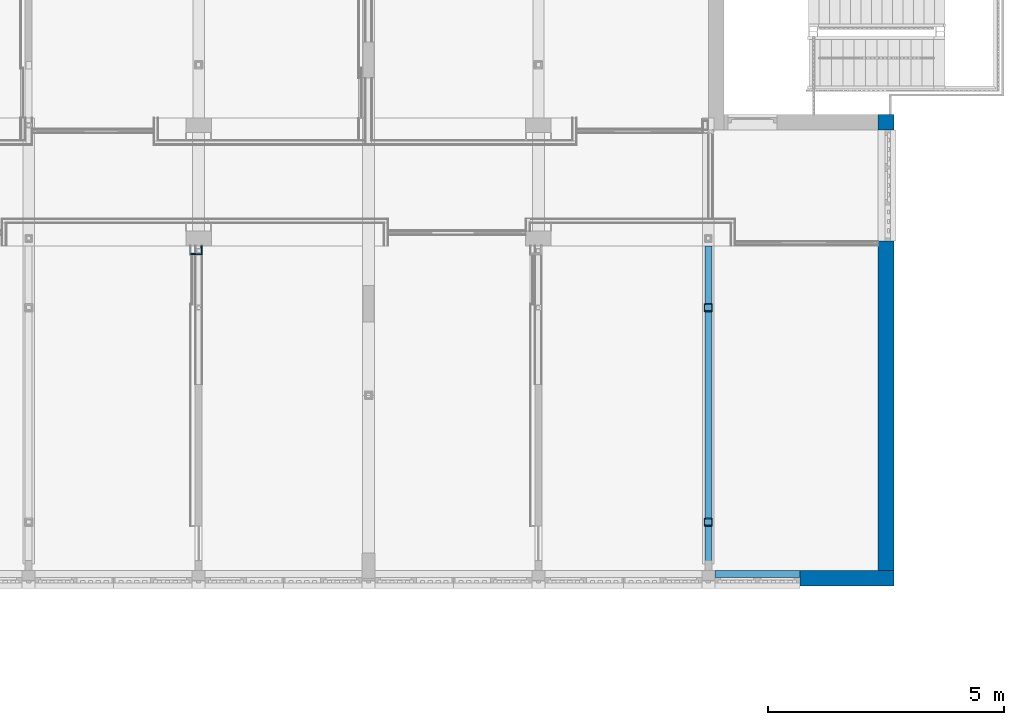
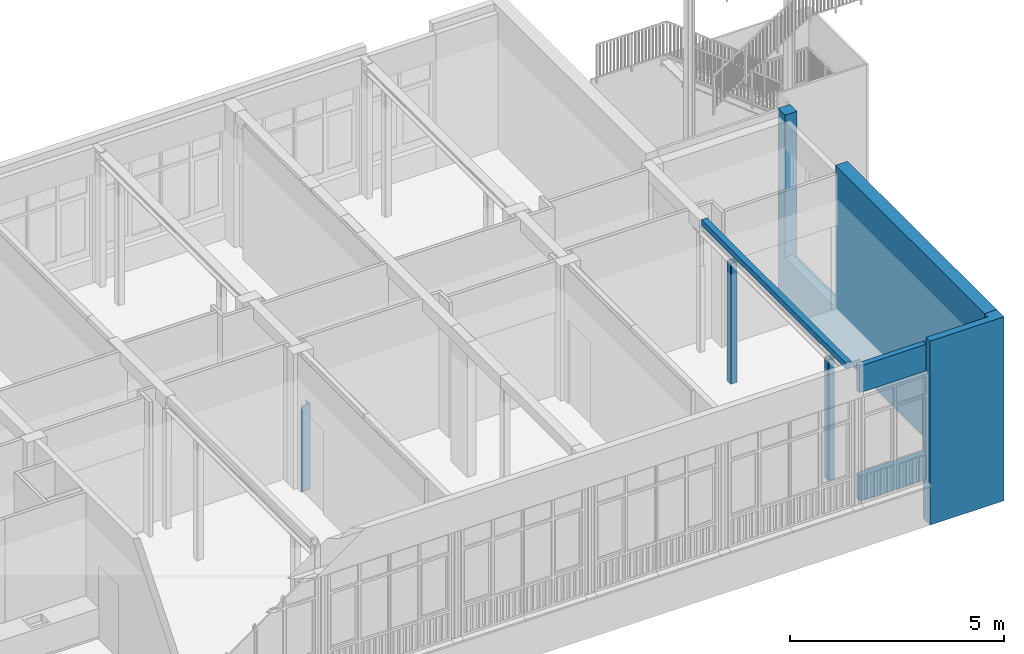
# One storey, part 94 of 135: 15 walls, 1 opening.
"""IFC2X3 building model written with IfcOpenShell, lengths in millimetres."""

import ifcopenshell
import ifcopenshell.guid

model = None  # the IFC model being written
_history = None  # IfcOwnerHistory: only IFC2X3 demands one
_inside = {}  # id of a spatial element -> (the spatial element, [elements in it])
_under = {}  # id of a project, library or spatial element -> (it, [spatial elements below it])
_declared = {}  # id of a project -> (the project, [libraries it declares])
_typed = {}  # id of a type object -> (the type object, [elements of that type])
_made_of = {}  # id of a material, layer set ... -> (it, [elements and type objects made of it])


def new_model(schema):
    """Start an empty IFC model of exactly this schema.

    Asked for "IFC4X3", IfcOpenShell would pick the latest addendum, in which some entities
    have other attributes; the version numbers below select the first issue.
    IFC2X3 requires an IfcOwnerHistory on every rooted entity: one is made here for all.
    """
    global model, _history
    if schema == "IFC4X3":
        model = ifcopenshell.file(schema_version=(4, 3, 0, 0))
    else:
        model = ifcopenshell.file(schema=schema)
    _inside.clear()
    _under.clear()
    _declared.clear()
    _typed.clear()
    _made_of.clear()
    _history = None
    if model.schema == "IFC2X3":
        org = make("IfcOrganization", Name="unknown")
        user = make(
            "IfcPersonAndOrganization",
            ThePerson=make("IfcPerson", FamilyName="unknown"),
            TheOrganization=org,
        )
        app = make(
            "IfcApplication",
            ApplicationDeveloper=org,
            Version="unknown",
            ApplicationFullName="unknown",
            ApplicationIdentifier="unknown",
        )
        _history = make(
            "IfcOwnerHistory",
            OwningUser=user,
            OwningApplication=app,
            ChangeAction="ADDED",
            CreationDate=0,
        )
    return model


def make(cls, **values):
    """One entity of the class cls with the attributes given. An attribute that is None is left unset."""
    return model.create_entity(
        cls, **{name: value for name, value in values.items() if value is not None}
    )


def entity(cls, *values):
    """Any entity or typed value of the class cls, its attributes in the order of the schema. None: left unset."""
    e = model.create_entity(cls)
    for i, value in enumerate(values):
        if value is not None:
            e[i] = value
    return e


def rooted(cls, **values):
    """An entity with a GlobalId (a new one), such as an element, a storey or a relation."""
    return make(cls, GlobalId=ifcopenshell.guid.new(), OwnerHistory=_history, **values)


def si_unit(unit_type, name, prefix=None):
    """IfcSIUnit, for example si_unit("LENGTHUNIT", "METRE", prefix="MILLI")."""
    return make("IfcSIUnit", UnitType=unit_type, Prefix=prefix, Name=name)


def converted_unit(unit_type, name, factor, base, dimensions=None, offset=None):
    """IfcConversionBasedUnit, such as the inch: factor (a typed value) times the base unit."""
    return make(
        "IfcConversionBasedUnit"
        if offset is None
        else "IfcConversionBasedUnitWithOffset",
        ConversionOffset=offset,
        Dimensions=None
        if dimensions is None
        else entity("IfcDimensionalExponents", *dimensions),
        UnitType=unit_type,
        Name=name,
        ConversionFactor=make(
            "IfcMeasureWithUnit", ValueComponent=factor, UnitComponent=base
        ),
    )


def derived_unit(unit_type, elements):
    """IfcDerivedUnit: a product of units, each with its exponent."""
    return make(
        "IfcDerivedUnit",
        Elements=[
            make("IfcDerivedUnitElement", Unit=unit, Exponent=power)
            for unit, power in elements
        ],
        UnitType=unit_type,
    )


def money_unit(currency):
    """IfcMonetaryUnit."""
    return make("IfcMonetaryUnit", Currency=currency)


def assignment(units):
    """IfcUnitAssignment: the units of a project."""
    return None if units is None else make("IfcUnitAssignment", Units=units)


def point(xyz):
    """IfcCartesianPoint."""
    return None if xyz is None else make("IfcCartesianPoint", Coordinates=xyz)


def direction(xyz):
    """IfcDirection."""
    return None if xyz is None else make("IfcDirection", DirectionRatios=xyz)


def frame(location, z_axis=None, x_axis=None):
    """IfcAxis2Placement3D, a coordinate frame: its origin and axes. An axis left out is left unset."""
    return make(
        "IfcAxis2Placement3D",
        Location=point(location),
        Axis=direction(z_axis),
        RefDirection=direction(x_axis),
    )


def origin_with_axes():
    """The frame at (0, 0, 0) with the z axis (0, 0, 1) and the x axis (1, 0, 0) written out."""
    return frame((0.0, 0.0, 0.0), z_axis=(0.0, 0.0, 1.0), x_axis=(1.0, 0.0, 0.0))


def place(relative_to, where):
    """IfcLocalPlacement: puts the frame where relative to a parent placement (None: the world)."""
    return make(
        "IfcLocalPlacement", PlacementRelTo=relative_to, RelativePlacement=where
    )


def context(
    kind, dimensions, precision=None, world=None, true_north=None, identifier=None
):
    """IfcGeometricRepresentationContext, for example the 3D "Model" context."""
    return make(
        "IfcGeometricRepresentationContext",
        ContextIdentifier=identifier,
        ContextType=kind,
        CoordinateSpaceDimension=dimensions,
        Precision=precision,
        WorldCoordinateSystem=world,
        TrueNorth=true_north,
    )


def subcontext(parent, identifier, kind, view, scale=None):
    """IfcGeometricRepresentationSubContext, for example "Body" below "Model"."""
    return make(
        "IfcGeometricRepresentationSubContext",
        ContextIdentifier=identifier,
        ContextType=kind,
        ParentContext=parent,
        TargetScale=scale,
        TargetView=view,
    )


def project(units=None, contexts=None):
    """IfcProject with its units and contexts."""
    return rooted(
        "IfcProject",
        Name="project",
        RepresentationContexts=contexts,
        UnitsInContext=assignment(units),
    )


def spatial(cls, under=None, at=None, **own):
    """A site, building, storey or space (cls), placed at a placement, below another one or the project."""
    s = rooted(cls, ObjectPlacement=at, **own)
    if under is not None:
        _under.setdefault(under.id(), (under, []))[1].append(s)
    return s


def faces_of(points, faces, orient=None, outer=None):
    """IfcFace entities. A face is a list of loops; a loop is a list of indices into points, from 0.

    orient and outer hold one flag for each loop. By default every Orientation is true, the
    first loop of a face is its IfcFaceOuterBound and the others are IfcFaceBound.
    """
    made = []
    for i, loops in enumerate(faces):
        bounds = []
        for j, loop in enumerate(loops):
            is_outer = j == 0 if outer is None else outer[i][j]
            bounds.append(
                make(
                    "IfcFaceOuterBound" if is_outer else "IfcFaceBound",
                    Bound=make("IfcPolyLoop", Polygon=[points[k] for k in loop]),
                    Orientation=True if orient is None else orient[i][j],
                )
            )
        made.append(make("IfcFace", Bounds=bounds))
    return made


def faceted_brep(points, faces, orient=None, outer=None, voids=None):
    """IfcFacetedBrep: a solid bounded by flat faces; with voids (closed shells), ...WithVoids."""
    shared = [point(p) for p in points]
    hull = make("IfcClosedShell", CfsFaces=faces_of(shared, faces, orient, outer))
    if voids is None:
        return make("IfcFacetedBrep", Outer=hull)
    return make(
        "IfcFacetedBrepWithVoids",
        Outer=hull,
        Voids=[
            make(cls, CfsFaces=faces_of(shared, fs, o, b)) for cls, fs, o, b in voids
        ],
    )


def shape(context_of_items, identifier, shape_type, items):
    """IfcShapeRepresentation: the items that make up one representation, for example the "Body"."""
    return make(
        "IfcShapeRepresentation",
        ContextOfItems=context_of_items,
        RepresentationIdentifier=identifier,
        RepresentationType=shape_type,
        Items=items,
    )


def material(Name=None, Category=None):
    """IfcMaterial."""
    return make("IfcMaterial", Name=Name, Category=Category)


def made_of(thing, what):
    """Note that an element or type object is made of a material, layer set ...; save() writes the relation."""
    if what is not None:
        _made_of.setdefault(what.id(), (what, []))[1].append(thing)
    return thing


def type_object(cls, material=None, **own):
    """A type object (cls), such as IfcWallType, which elements share."""
    return made_of(rooted(cls, **own), material)


def element(
    cls,
    number,
    at=None,
    inside=None,
    cuts=None,
    type_object=None,
    material=None,
    context=None,
    identifier="Body",
    shape_type=None,
    held_by="IfcProductDefinitionShape",
    body=None,
    shapes=None,
    **own,
):
    """One element of the class cls, such as IfcWall. Its Tag is "e" and its number.

    at: its placement. inside: the storey or other place that contains it. cuts: it is an
    opening in that element (IfcRelVoidsElement). A single representation is given by context,
    identifier, shape_type and body (its items); several are given by shapes. held_by: the class
    of the entity that holds the representations. save() writes the other relations.
    """
    e = rooted(cls, Tag="e%d" % number, ObjectPlacement=at, **own)
    if body is not None:
        shapes = [shape(context, identifier, shape_type, body)]
    if shapes is not None:
        e.Representation = make(held_by, Representations=shapes)
    if inside is not None:
        _inside.setdefault(inside.id(), (inside, []))[1].append(e)
    if cuts is not None:
        rooted(
            "IfcRelVoidsElement", RelatingBuildingElement=cuts, RelatedOpeningElement=e
        )
    if type_object is not None:
        _typed.setdefault(type_object.id(), (type_object, []))[1].append(e)
    return made_of(e, material)


def aggregate(whole, parts):
    """IfcRelAggregates: a whole, such as a stair, and the parts it consists of."""
    return rooted("IfcRelAggregates", RelatingObject=whole, RelatedObjects=parts)


def save(model, path):
    """Write the relations noted so far, then the file.

    IfcRelAggregates (storeys below a building ...), IfcRelContainedInSpatialStructure (elements
    in a storey), IfcRelDefinesByType, IfcRelAssociatesMaterial and IfcRelDeclares: one each for
    every whole, place, type object, material and project.
    """
    for whole, parts in _under.values():
        aggregate(whole, parts)
    for where, things in _inside.values():
        rooted(
            "IfcRelContainedInSpatialStructure",
            RelatedElements=things,
            RelatingStructure=where,
        )
    for kind, things in _typed.values():
        rooted("IfcRelDefinesByType", RelatedObjects=things, RelatingType=kind)
    for what, things in _made_of.values():
        rooted("IfcRelAssociatesMaterial", RelatedObjects=things, RelatingMaterial=what)
    for by, libraries in _declared.values():
        rooted("IfcRelDeclares", RelatingContext=by, RelatedDefinitions=libraries)
    model.write(path)


model = new_model("IFC2X3")

# Units and contexts
model_context = context("Model", 3, precision=0.01, world=origin_with_axes(), true_north=direction((0.0, 1.0)))
body_context = subcontext(model_context, "Body", "Model", "MODEL_VIEW")
ifc_project = project(units=[si_unit("LENGTHUNIT", "METRE", prefix="MILLI"), si_unit("AREAUNIT", "SQUARE_METRE"), si_unit("VOLUMEUNIT", "CUBIC_METRE"), converted_unit("PLANEANGLEUNIT", "DEGREE", entity("IfcPlaneAngleMeasure", 0.0174532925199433), si_unit("PLANEANGLEUNIT", "RADIAN"), dimensions=[0, 0, 0, 0, 0, 0, 0]), money_unit("EUR"), converted_unit("TIMEUNIT", "Year", entity("IfcTimeMeasure", 31557600.0), si_unit("TIMEUNIT", "SECOND"), dimensions=[0, 0, 1, 0, 0, 0, 0]), si_unit("MASSUNIT", "GRAM", prefix="KILO"), si_unit("THERMODYNAMICTEMPERATUREUNIT", "DEGREE_CELSIUS"), si_unit("LUMINOUSINTENSITYUNIT", "LUMEN"), si_unit("ENERGYUNIT", "JOULE", prefix="MEGA"), derived_unit("THERMALCONDUCTANCEUNIT", [(si_unit("POWERUNIT", "WATT"), 1), (si_unit("LENGTHUNIT", "METRE"), -1), (si_unit("THERMODYNAMICTEMPERATUREUNIT", "KELVIN"), -1)]), derived_unit("SPECIFICHEATCAPACITYUNIT", [(si_unit("ENERGYUNIT", "JOULE"), 1), (si_unit("MASSUNIT", "GRAM", prefix="KILO"), -1), (si_unit("THERMODYNAMICTEMPERATUREUNIT", "KELVIN"), -1)]), derived_unit("MASSDENSITYUNIT", [(si_unit("MASSUNIT", "GRAM", prefix="KILO"), 1), (si_unit("VOLUMEUNIT", "CUBIC_METRE"), -1)])], contexts=[model_context])

# Site, building, storey
site_placement = place(None, origin_with_axes())
site = spatial("IfcSite", under=ifc_project, at=site_placement, Name="Site", CompositionType="ELEMENT")
building_placement = place(site_placement, origin_with_axes())
building = spatial("IfcBuilding", under=site, at=building_placement, Name="Naam gebouw", CompositionType="ELEMENT")
storey_placement = place(building_placement, origin_with_axes())
storey = spatial("IfcBuildingStorey", under=building, at=storey_placement, Name="Begane grond N", CompositionType="ELEMENT", Elevation=0.0)

# Wall
ifc_material_1 = material(Name="ALG - CONSTRUCTIEF")
wall_type_1 = type_object("IfcWallType", Name="ALG - CONSTRUCTIEF 330", PredefinedType="NOTDEFINED")
wall_1_placement = place(storey_placement, frame((57599.99999999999, 10990.91242510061, -1200.0), z_axis=(0.0, 0.0, 1.0), x_axis=(-1.0, 0.0, 0.0)))
element("IfcWall", 1, at=wall_1_placement, inside=storey, type_object=wall_type_1, material=ifc_material_1, Name="_Wand-x", context=body_context, shape_type="Brep", body=[
    faceted_brep([(1662.500000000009, 0.0, 0.0), (1662.500000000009, 0.0, 5050.000000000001), (0.0, 0.0, 5050.000000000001), (0.0, 0.0, 5250.000000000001), (-329.9999999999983, 0.0, 5250.000000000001), (-329.9999999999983, 0.0, 0.0), (1662.500000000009, 146.0000000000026, 5250.000000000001), (1662.500000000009, 146.0000000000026, 5050.000000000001), (1662.500000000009, 330.0000000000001, 0.0), (1662.500000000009, 330.0000000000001, 5250.000000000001), (0.0, 146.0000000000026, 5050.000000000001), (0.0, 146.0000000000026, 5250.000000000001), (-329.9999999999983, 330.0000000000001, 5250.000000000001), (-329.9999999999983, 330.0000000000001, 0.0)], [[[0, 1, 2, 3, 4, 5]], [[6, 7, 1, 0, 8, 9]], [[10, 2, 1, 7]], [[10, 11, 3, 2]], [[3, 11, 6, 9, 12, 4]], [[5, 4, 12, 13]], [[0, 5, 13, 8]], [[7, 6, 11, 10]], [[8, 13, 12, 9]]]),
])

# Wall, opening
wall_2_placement = place(storey_placement, frame((57599.99999999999, 20655.9124251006, -1200.0), z_axis=(0.0, 0.0, 1.0), x_axis=(0.0, -1.0, 0.0)))
wall_2 = element("IfcWall", 2, at=wall_2_placement, inside=storey, type_object=wall_type_1, material=ifc_material_1, Name="_Wand-x", context=body_context, shape_type="Brep", body=[
    faceted_brep([(329.9999999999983, 225.0000000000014, 1200.000000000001), (329.9999999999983, 225.0000000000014, 1120.000000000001), (329.9999999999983, 329.9999999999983, 1120.000000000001), (329.9999999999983, 329.9999999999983, 1200.000000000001), (329.9999999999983, 329.9999999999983, 5250.000000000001), (329.9999999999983, 0.0, 5250.000000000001), (329.9999999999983, 0.0, 1200.000000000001), (2684.999999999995, 225.0000000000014, 1200.000000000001), (2684.999999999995, 225.0000000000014, 1120.000000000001), (2684.999999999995, 329.9999999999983, 1120.000000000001), (2684.999999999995, 329.9999999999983, 1200.000000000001), (2684.999999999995, 329.9999999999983, 5250.000000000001), (9664.999999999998, 329.9999999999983, 5250.000000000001), (9664.999999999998, 329.9999999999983, 0.0), (0.0, 329.9999999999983, 0.0), (0.0, 329.9999999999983, 5250.000000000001), (0.0, 0.0, 5250.000000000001), (9664.999999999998, 0.0, 5250.000000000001), (2684.999999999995, 0.0, 5250.000000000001), (2684.999999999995, 0.0, 1200.000000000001), (0.0, 0.0, 0.0), (9664.999999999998, 0.0, 0.0)], [[[0, 1, 2, 3, 4, 5, 6]], [[0, 7, 8, 1]], [[9, 2, 1, 8]], [[9, 10, 11, 12, 13, 14, 15, 4, 3, 2]], [[4, 15, 16, 5]], [[17, 18, 19, 6, 5, 16, 20, 21]], [[7, 0, 6, 19]], [[10, 9, 8, 7, 19, 18, 11]], [[17, 12, 11, 18]], [[12, 17, 21, 13]], [[20, 14, 13, 21]], [[20, 16, 15, 14]]]),
])
opening_placement = place(wall_2_placement, frame((1507.499999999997, 0.0, 1200.000000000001), z_axis=(0.0, 0.0, 1.0), x_axis=(1.0, 0.0, 0.0)))
element("IfcOpeningElement", 3, at=opening_placement, cuts=wall_2, Name="_Merk-009", context=body_context, shape_type="Brep", body=[
    faceted_brep([(1177.499999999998, 259.999999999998, 0.0), (1177.499999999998, 330.999999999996, 0.0), (1177.499999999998, 330.999999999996, 4090.0), (1177.499999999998, 259.999999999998, 4090.0), (1177.499999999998, -0.9999999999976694, 4090.0), (1177.499999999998, -0.9999999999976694, 0.0), (1177.499999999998, 225.0000000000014, 0.0), (1177.499999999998, 225.0000000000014, -80.00000000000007), (1177.499999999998, 330.999999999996, -80.00000000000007), (-1177.499999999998, 330.999999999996, 0.0), (-1177.499999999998, 330.999999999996, 4090.0), (-1177.499999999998, 330.999999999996, -80.00000000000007), (-1177.499999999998, 259.999999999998, 4090.0), (-1177.499999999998, -0.9999999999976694, 4090.0), (-1177.499999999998, -0.9999999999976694, 0.0), (-1177.499999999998, 225.0000000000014, 0.0), (-1177.499999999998, 225.0000000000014, -80.00000000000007), (-1177.499999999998, 259.999999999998, 0.0)], [[[0, 1, 2, 3]], [[1, 0, 3, 4, 5, 6, 7, 8]], [[9, 10, 2, 1, 8, 11]], [[3, 2, 10, 12, 13, 4]], [[13, 14, 5, 4]], [[15, 6, 5, 14]], [[6, 15, 16, 7]], [[7, 16, 11, 8]], [[9, 17, 12, 10]], [[17, 9, 11, 16, 15, 14, 13, 12]]]),
])

# Walls
wall_type_2 = type_object("IfcWallType", Name="ALG - CONSTRUCTIEF 146", PredefinedType="NOTDEFINED")
wall_3_placement = place(storey_placement, frame((55937.49999999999, 10990.91242510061, 0.0), z_axis=(0.0, 0.0, 1.0), x_axis=(-1.0, 0.0, 0.0)))
element("IfcWall", 4, at=wall_3_placement, inside=storey, type_object=wall_type_2, material=ifc_material_1, Name="_Wand-x", context=body_context, shape_type="Brep", body=[
    faceted_brep([(0.0, 146.0000000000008, 0.0), (1799.999999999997, 145.999999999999, 0.0), (1799.999999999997, 0.0, 0.0), (0.0, 0.0, 0.0), (0.0, 146.0000000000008, 720.0000000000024), (1799.999999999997, 146.0000000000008, 720.0000000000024), (1799.999999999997, 0.0, 720.0000000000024), (0.0, 0.0, 720.0000000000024)], [[[0, 1, 2, 3]], [[4, 5, 1, 0]], [[2, 1, 5, 6]], [[3, 2, 6, 7]], [[4, 0, 3, 7]], [[7, 6, 5, 4]]]),
])
wall_4_placement = place(storey_placement, frame((55937.49999999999, 10990.91242510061, 3090.0), z_axis=(0.0, 0.0, 1.0), x_axis=(-1.0, 0.0, 0.0)))
element("IfcWall", 5, at=wall_4_placement, inside=storey, type_object=wall_type_2, material=ifc_material_1, Name="_Wand-x", context=body_context, shape_type="Brep", body=[
    faceted_brep([(0.0, 146.0000000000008, 0.0), (1799.999999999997, 145.999999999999, 0.0), (1799.999999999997, 0.0, 0.0), (0.0, 0.0, 0.0), (0.0, 146.0000000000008, 760.0000000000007), (1799.999999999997, 146.0000000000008, 760.0000000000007), (1799.999999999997, 0.0, 760.0000000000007), (0.0, 0.0, 760.0000000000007)], [[[0, 1, 2, 3]], [[4, 5, 1, 0]], [[2, 1, 5, 6]], [[3, 2, 6, 7]], [[4, 0, 3, 7]], [[7, 6, 5, 4]]]),
])
ifc_material_2 = material(Name="Gipsplaat")
wall_type_3 = type_object("IfcWallType", Name="Gipsplaat 25", PredefinedType="NOTDEFINED")
wall_5_placement = place(storey_placement, frame((53915.00000000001, 16645.9124251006, 0.0), z_axis=(0.0, 0.0, 1.0), x_axis=(1.0, 0.0, 0.0)))
element("IfcWall", 6, at=wall_5_placement, inside=storey, type_object=wall_type_3, material=ifc_material_2, Name="_Wand-x", context=body_context, shape_type="Brep", body=[
    faceted_brep([(170.0000000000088, -24.99999999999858, 3439.999999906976), (170.0000000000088, 0.0, 3439.999999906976), (24.99999999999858, 0.0, 3439.999999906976), (24.99999999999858, -24.99999999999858, 3439.999999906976), (170.0000000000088, -24.99999999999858, 0.0), (170.0000000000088, 0.0, 0.0), (24.99999999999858, 0.0, 0.0), (24.99999999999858, -24.99999999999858, 0.0)], [[[0, 1, 2, 3]], [[1, 0, 4, 5]], [[1, 5, 6, 2]], [[7, 3, 2, 6]], [[4, 0, 3, 7]], [[5, 4, 7, 6]]]),
])
wall_6_placement = place(storey_placement, frame((53915.00000000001, 16475.91242510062, 0.0), z_axis=(0.0, 0.0, 1.0), x_axis=(1.0, 0.0, 0.0)))
element("IfcWall", 7, at=wall_6_placement, inside=storey, type_object=wall_type_3, material=ifc_material_2, Name="_Wand-x", context=body_context, shape_type="Brep", body=[
    faceted_brep([(169.9999999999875, 25.00000000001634, 0.0), (169.9999999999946, 0.0, 0.0), (24.99999999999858, 0.0, 0.0), (24.99999999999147, 24.99999999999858, 0.0), (169.9999999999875, 25.00000000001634, 3439.999999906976), (169.9999999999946, 0.0, 3439.999999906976), (24.99999999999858, 0.0, 3439.999999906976), (24.99999999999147, 24.99999999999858, 3439.999999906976)], [[[0, 1, 2, 3]], [[1, 0, 4, 5]], [[1, 5, 6, 2]], [[7, 3, 2, 6]], [[4, 0, 3, 7]], [[5, 4, 7, 6]]]),
])
wall_7_placement = place(storey_placement, frame((43275.00000000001, 17685.91242510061, 0.0), z_axis=(0.0, 0.0, 1.0), x_axis=(0.0, 1.0, 0.0)))
element("IfcWall", 8, at=wall_7_placement, inside=storey, type_object=wall_type_3, material=ifc_material_2, Name="_Wand-x", context=body_context, shape_type="Brep", body=[
    faceted_brep([(24.99999999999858, 0.0, 0.0), (24.99999999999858, 24.99999999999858, 0.0), (184.9999999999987, 24.99999999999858, 0.0), (184.9999999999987, 0.0, 0.0), (24.99999999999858, 0.0, 2440.0), (24.99999999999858, 24.99999999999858, 2440.0), (184.9999999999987, 24.99999999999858, 2440.0), (184.9999999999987, 0.0, 2440.0)], [[[0, 1, 2, 3]], [[4, 5, 1, 0]], [[1, 5, 6, 2]], [[7, 3, 2, 6]], [[4, 0, 3, 7]], [[5, 4, 7, 6]]]),
])
wall_8_placement = place(storey_placement, frame((54085.00000000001, 16475.9124251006, 0.0), z_axis=(0.0, 0.0, 1.0), x_axis=(0.0, 1.0, 0.0)))
element("IfcWall", 9, at=wall_8_placement, inside=storey, type_object=wall_type_3, material=ifc_material_2, Name="_Wand-x", context=body_context, shape_type="Brep", body=[
    faceted_brep([(145.0000000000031, 25.00000000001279, 0.0), (145.0000000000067, 0.0, 0.0), (24.99999999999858, 0.0, 0.0), (24.99999999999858, 24.99999999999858, 0.0), (145.0000000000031, 25.00000000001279, 3439.999999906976), (145.0000000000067, 0.0, 3439.999999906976), (24.99999999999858, 0.0, 3439.999999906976), (24.99999999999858, 24.99999999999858, 3439.999999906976)], [[[0, 1, 2, 3]], [[1, 0, 4, 5]], [[1, 5, 6, 2]], [[7, 3, 2, 6]], [[4, 0, 3, 7]], [[5, 4, 7, 6]]]),
])
wall_9_placement = place(storey_placement, frame((43275.00000000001, 17685.91242510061, 0.0), z_axis=(0.0, 0.0, 1.0), x_axis=(-1.0, 0.0, 0.0)))
element("IfcWall", 10, at=wall_9_placement, inside=storey, type_object=wall_type_3, material=ifc_material_2, Name="_Wand-x", context=body_context, shape_type="Brep", body=[
    faceted_brep([(237.5000000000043, -24.99999999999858, 2440.0), (237.5000000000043, 0.0, 2440.0), (0.0, 0.0, 2440.0), (0.0, -24.99999999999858, 2440.0), (237.5000000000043, -24.99999999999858, 0.0), (237.5000000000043, 0.0, 0.0), (0.0, 0.0, 0.0), (0.0, -24.99999999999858, 0.0)], [[[0, 1, 2, 3]], [[1, 0, 4, 5]], [[1, 5, 6, 2]], [[7, 3, 2, 6]], [[4, 0, 3, 7]], [[5, 4, 7, 6]]]),
])
wall_10_placement = place(storey_placement, frame((53915.00000000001, 16475.91242510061, 0.0), z_axis=(0.0, 0.0, 1.0), x_axis=(0.0, 1.0, 0.0)))
element("IfcWall", 11, at=wall_10_placement, inside=storey, type_object=wall_type_3, material=ifc_material_2, Name="_Wand-x", context=body_context, shape_type="Brep", body=[
    faceted_brep([(169.999999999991, -24.99999999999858, 3439.999999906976), (169.999999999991, 0.0, 3439.999999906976), (0.0, 0.0, 3439.999999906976), (0.0, -24.99999999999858, 3439.999999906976), (169.999999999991, -24.99999999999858, 0.0), (169.999999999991, 0.0, 0.0), (0.0, 0.0, 0.0), (0.0, -24.99999999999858, 0.0)], [[[0, 1, 2, 3]], [[1, 0, 4, 5]], [[1, 5, 6, 2]], [[7, 3, 2, 6]], [[4, 0, 3, 7]], [[5, 4, 7, 6]]]),
])
wall_11_placement = place(storey_placement, frame((53915.00000000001, 11930.91242510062, 0.0), z_axis=(0.0, 0.0, 1.0), x_axis=(1.0, 0.0, 0.0)))
element("IfcWall", 12, at=wall_11_placement, inside=storey, type_object=wall_type_3, material=ifc_material_2, Name="_Wand-x", context=body_context, shape_type="Brep", body=[
    faceted_brep([(169.9999999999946, 25.00000000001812, 0.0), (169.9999999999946, 0.0, 0.0), (24.99999999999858, 0.0, 0.0), (24.99999999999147, 25.00000000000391, 0.0), (169.9999999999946, 25.00000000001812, 3439.999999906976), (169.9999999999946, 0.0, 3439.999999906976), (24.99999999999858, 0.0, 3439.999999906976), (24.99999999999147, 25.00000000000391, 3439.999999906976)], [[[0, 1, 2, 3]], [[1, 0, 4, 5]], [[1, 5, 6, 2]], [[7, 3, 2, 6]], [[4, 0, 3, 7]], [[5, 4, 7, 6]]]),
])
wall_12_placement = place(storey_placement, frame((54085.00000000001, 11930.9124251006, 0.0), z_axis=(0.0, 0.0, 1.0), x_axis=(0.0, 1.0, 0.0)))
element("IfcWall", 13, at=wall_12_placement, inside=storey, type_object=wall_type_3, material=ifc_material_2, Name="_Wand-x", context=body_context, shape_type="Brep", body=[
    faceted_brep([(145.0000000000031, 25.00000000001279, 0.0), (145.0000000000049, 0.0, 0.0), (25.00000000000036, 0.0, 0.0), (25.00000000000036, 25.00000000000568, 0.0), (145.0000000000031, 25.00000000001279, 3439.999999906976), (145.0000000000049, 0.0, 3439.999999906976), (25.00000000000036, 0.0, 3439.999999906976), (25.00000000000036, 25.00000000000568, 3439.999999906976)], [[[0, 1, 2, 3]], [[1, 0, 4, 5]], [[1, 5, 6, 2]], [[7, 3, 2, 6]], [[4, 0, 3, 7]], [[5, 4, 7, 6]]]),
])
wall_13_placement = place(storey_placement, frame((53915.00000000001, 12100.9124251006, 0.0), z_axis=(0.0, 0.0, 1.0), x_axis=(1.0, 0.0, 0.0)))
element("IfcWall", 14, at=wall_13_placement, inside=storey, type_object=wall_type_3, material=ifc_material_2, Name="_Wand-x", context=body_context, shape_type="Brep", body=[
    faceted_brep([(170.0000000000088, -25.00000000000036, 3439.999999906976), (170.0000000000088, 0.0, 3439.999999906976), (24.99999999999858, 0.0, 3439.999999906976), (24.99999999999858, -25.00000000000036, 3439.999999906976), (170.0000000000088, -25.00000000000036, 0.0), (170.0000000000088, 0.0, 0.0), (24.99999999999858, 0.0, 0.0), (24.99999999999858, -25.00000000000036, 0.0)], [[[0, 1, 2, 3]], [[1, 0, 4, 5]], [[1, 5, 6, 2]], [[7, 3, 2, 6]], [[4, 0, 3, 7]], [[5, 4, 7, 6]]]),
])
wall_14_placement = place(storey_placement, frame((53915.00000000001, 11930.91242510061, 0.0), z_axis=(0.0, 0.0, 1.0), x_axis=(0.0, 1.0, 0.0)))
element("IfcWall", 15, at=wall_14_placement, inside=storey, type_object=wall_type_3, material=ifc_material_2, Name="_Wand-x", context=body_context, shape_type="Brep", body=[
    faceted_brep([(169.999999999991, -24.99999999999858, 3439.999999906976), (169.999999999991, 0.0, 3439.999999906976), (0.0, 0.0, 3439.999999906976), (0.0, -24.99999999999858, 3439.999999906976), (169.999999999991, -24.99999999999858, 0.0), (169.999999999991, 0.0, 0.0), (0.0, 0.0, 0.0), (0.0, -24.99999999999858, 0.0)], [[[0, 1, 2, 3]], [[1, 0, 4, 5]], [[1, 5, 6, 2]], [[7, 3, 2, 6]], [[4, 0, 3, 7]], [[5, 4, 7, 6]]]),
])
ifc_material_3 = material(Name="Steen - Betonblok")
wall_type_4 = type_object("IfcWallType", Name="Steen - Betonblok 150", PredefinedType="NOTDEFINED")
wall_15_placement = place(storey_placement, frame((54000.0, 17870.91242510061, 3679.999999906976), z_axis=(0.0, 0.0, 1.0), x_axis=(0.0, -1.0, 0.0)))
element("IfcWall", 16, at=wall_15_placement, inside=storey, type_object=wall_type_4, material=ifc_material_3, Name="_Wand-x", context=body_context, shape_type="Brep", body=[
    faceted_brep([(0.0, 75.00000000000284, 170.0000000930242), (0.0, -75.00000000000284, 170.0000000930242), (6740.000000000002, -75.00000000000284, 170.0000000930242), (6740.000000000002, 74.99999999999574, 170.0000000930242), (0.0, 75.00000000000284, 0.0), (0.0, -75.00000000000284, 0.0), (6740.000000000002, -75.00000000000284, 0.0), (6740.000000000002, 74.99999999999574, 0.0)], [[[0, 1, 2, 3]], [[4, 5, 1, 0]], [[1, 5, 6, 2]], [[7, 3, 2, 6]], [[4, 0, 3, 7]], [[5, 4, 7, 6]]]),
])

save(model, "model.ifc")
